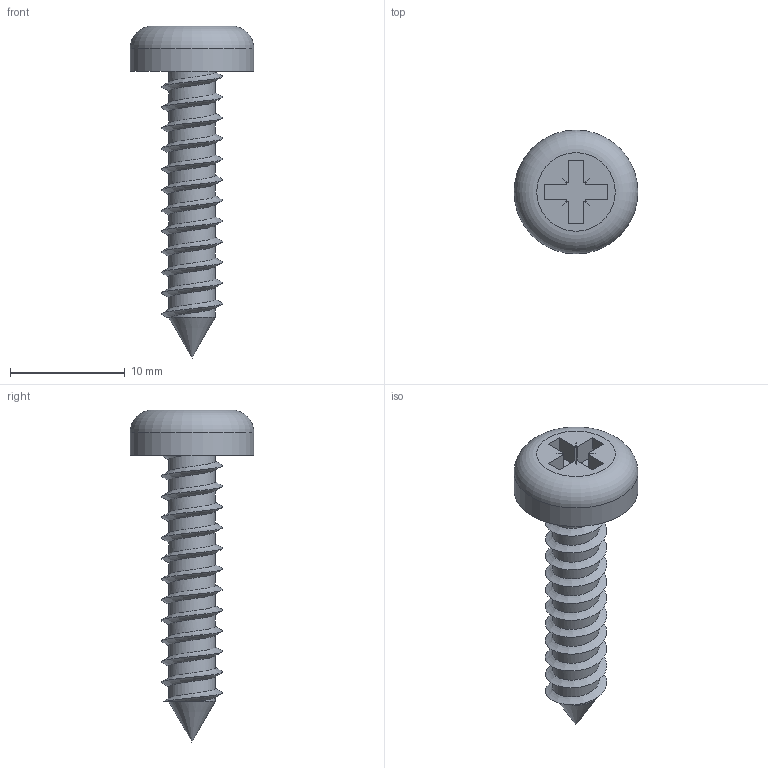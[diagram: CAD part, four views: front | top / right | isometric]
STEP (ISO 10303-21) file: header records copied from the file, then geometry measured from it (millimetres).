
FILE_DESCRIPTION(/* description */ (''),/* implementation_level */ '2;1');
FILE_NAME(/* name */ 'Pan Head Self Tapping Screw - No.12 (5.5mm) - 25mm.step',/* time_stamp */ '2025-09-01T16:29:38+03:00',/* author */ (''),/* organization */ (''),/* preprocessor_version */ 'ST-DEVELOPER v20.1',/* originating_system */ 'Autodesk Translation Framework v14.10.0.0',/* authorisation */ '');
FILE_SCHEMA (('AUTOMOTIVE_DESIGN { 1 0 10303 214 3 1 1 }'));
Length unit declared in the file: millimetre
Products named in the file (1): SPPT BASE
Bounding box: 10.8 x 10.8 x 28.95 mm (x, y, z)
Volume: 645 mm3; surface area: 769.6 mm2
Topology: 1 solids, 1 shells, 54 faces, 167 edges, 116 vertices
Faces by surface type: plane 36, cylinder 14, bspline 2, torus 1, cone 1
Full cylindrical faces by diameter (mm): 4.08 x11, 10.8 x1
Entity records: 8752 total; most frequent: CARTESIAN_POINT 7302, ORIENTED_EDGE 332, DIRECTION 234, EDGE_CURVE 166, VERTEX_POINT 116, LINE 110, VECTOR 110, AXIS2_PLACEMENT_3D 62
